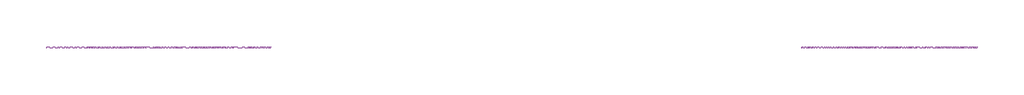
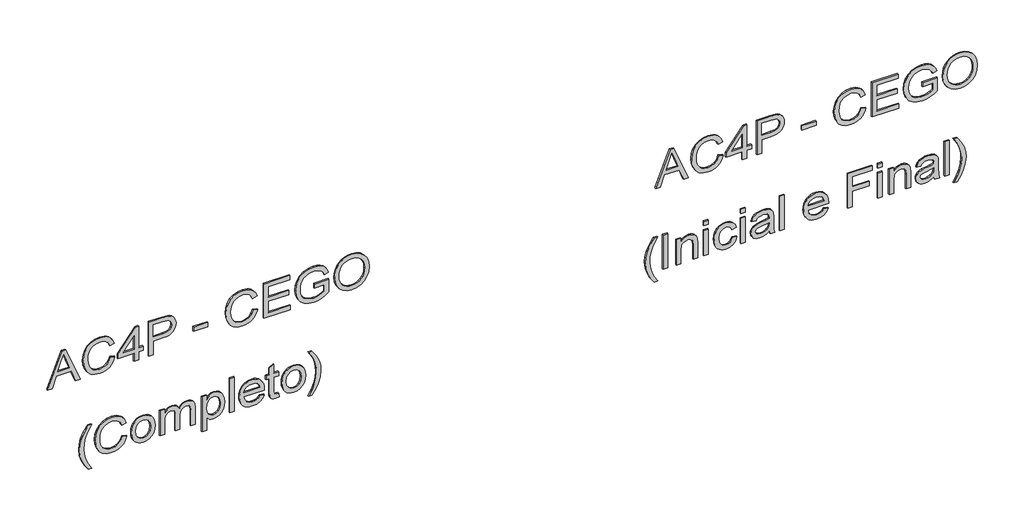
# One storey, part 9 of 12: 2 proxies.
"""IFC4 building model written with IfcOpenShell, lengths in millimetres."""

from ifc_helpers import new_model, si_unit, frame, origin, place, context, project, spatial, polyline, outline, extrude, element, save

model = new_model("IFC4")

# Units and contexts
model_context = context("Model", 3, world=origin())
ifc_project = project(units=[si_unit("LENGTHUNIT", "METRE", prefix="MILLI")], contexts=[model_context])

# Site, building, storey
site = spatial("IfcSite", under=ifc_project)
building = spatial("IfcBuilding", under=site)
storey = spatial("IfcBuildingStorey", under=building, Name="02 - Marelli - Planta Baixa - Painéis Cego", Elevation=12000.0)

# Proxies
placement = place(None, origin())
element("IfcBuildingElementProxy", 1, Name="300mm Arial", ObjectType="300mm Arial", at=placement, inside=storey, context=model_context, shape_type="SweptSolid", body=[
    extrude(outline(polyline([(17965.9244535, 42526.1420514), (17965.9244535, 42565.9468833), (18060.1022443, 42600.380638), (18060.1022443, 42724.5040232), (17965.9244535, 42759.0113544), (17965.9244535, 42798.8161862), (18267.293384, 42678.5187738), (18267.293384, 42646.4394638), (17965.9244535, 42526.1420514)]), holes=[polyline([(18097.7733606, 42614.2130011), (18178.3395176, 42643.7171371), (18229.6222677, 42662.4791188), (18171.8647944, 42683.5955453), (18097.7733606, 42710.7452366), (18097.7733606, 42614.2130011)])]), frame((0.0, 8778.3159498, 0.0), z_axis=(0.0, 1.0, 0.0), x_axis=(0.0, 0.0, 1.0)), (0.0, 0.0, 1.0), 10.0),
    extrude(outline(polyline([(18073.0516905, 43050.9625057), (18040.7884396, 43038.7764146), (18017.5750857, 43018.9935603), (18003.5587816, 42992.7911652), (17998.8866803, 42961.3464517), (18002.3171799, 42934.3715044), (18012.6086787, 42909.3647258), (18029.8347531, 42888.5058167), (18054.0689796, 42873.9744778), (18084.1617268, 42865.4488126), (18118.9633635, 42862.6069242), (18147.3822477, 42865.0073542), (18174.9550032, 42872.2086443), (18199.3455795, 42885.3328344), (18218.2179258, 42905.5019648), (18230.3028494, 42932.081439), (18234.3311572, 42964.4366605), (18230.6983225, 42992.5060567), (18219.7998184, 43015.3515286), (18200.9550632, 43033.1938054), (18173.4834752, 43046.2536162), (18182.4597959, 43083.9247325), (18220.278065, 43067.2872693), (18235.6003501, 43055.485155), (18248.5314022, 43041.3607857), (18258.7999084, 43025.1808757), (18266.1345557, 43007.2121394), (18272.0022735, 42965.9081884), (18267.4681279, 42928.0531311), (18253.8656912, 42893.5090118), (18231.526057, 42864.3819548), (18200.7803193, 42842.7780847), (18162.8332915, 42829.3963771), (18118.8897871, 42824.9358079), (18077.2271512, 42828.8813423), (18038.3236302, 42840.7179455), (18005.2326447, 42860.1053266), (17981.0076153, 42886.7031949), (17966.1635768, 42921.4036641), (17961.215564, 42965.0988481), (17962.8503396, 42987.5212557), (17967.7546665, 43008.1410415), (17975.9285445, 43026.9582055), (17987.3719739, 43043.9727478), (18001.9286046, 43058.848976), (18019.4420868, 43071.2511978), (18039.9124206, 43081.1794131), (18063.3396059, 43088.633622), (18073.0516905, 43050.9625057)])), frame((0.0, 8778.3159498, 0.0), z_axis=(0.0, 1.0, 0.0), x_axis=(0.0, 0.0, 1.0)), (0.0, 0.0, 1.0), 10.0),
    extrude(outline(polyline([(17965.9244535, 43248.7358663), (17965.9244535, 43286.4069826), (18036.5577966, 43286.4069826), (18036.5577966, 43324.0780989), (18074.2289129, 43324.0780989), (18074.2289129, 43286.4069826), (18262.5844944, 43286.4069826), (18262.5844944, 43258.1536454), (18074.2289129, 43112.1780697), (18036.5577966, 43112.1780697), (18036.5577966, 43248.7358663), (17965.9244535, 43248.7358663)]), holes=[polyline([(18074.2289129, 43248.7358663), (18074.2289129, 43158.5312011), (18190.6267762, 43248.7358663), (18074.2289129, 43248.7358663)])]), frame((0.0, 8778.3159498, 0.0), z_axis=(0.0, 1.0, 0.0), x_axis=(0.0, 0.0, 1.0)), (0.0, 0.0, 1.0), 10.0),
    extrude(outline(polyline([(17965.9244535, 43371.1669943), (17965.9244535, 43408.8381106), (18088.3555815, 43408.8381106), (18088.3555815, 43485.431142), (18090.0202476, 43514.6294761), (18095.0142456, 43538.9487753), (18103.3375758, 43558.3890395), (18114.990238, 43572.9502687), (18129.0479287, 43583.5567665), (18144.5863445, 43591.1328363), (18161.6054853, 43595.6784782), (18180.1053511, 43597.1936922), (18201.5620685, 43594.949612), (18221.19777, 43588.2173715), (18237.8444303, 43577.797114), (18250.334024, 43564.4889828), (18259.0620243, 43547.9618842), (18264.4239044, 43527.8847243), (18267.293384, 43482.8559681), (18267.293384, 43371.1669943), (17965.9244535, 43371.1669943)]), holes=[polyline([(18126.0266978, 43408.8381106), (18229.6222677, 43408.8381106), (18229.6222677, 43486.7555172), (18227.0470937, 43524.4266335), (18220.7195234, 43538.6544697), (18209.9773691, 43549.8472794), (18195.7035477, 43557.1037517), (18178.7809759, 43559.5225759), (18156.5057211, 43555.4206916), (18139.8590609, 43543.1150389), (18129.4847886, 43521.0421192), (18126.0266978, 43487.638434), (18126.0266978, 43408.8381106)])]), frame((0.0, 8778.3159498, 0.0), z_axis=(0.0, 1.0, 0.0), x_axis=(0.0, 0.0, 1.0)), (0.0, 0.0, 1.0), 10.0),
    extrude(outline(polyline([(43860.8915063, 8778.3159498), (43743.1692679, 8778.3159498), (43743.1692679, 8788.3159498), (43860.8915063, 8788.3159498), (43860.8915063, 8778.3159498)])), frame((0.0, 0.0, 18055.3933548), z_axis=(0.0, 0.0, 1.0), x_axis=(1.0, 0.0, 0.0)), (0.0, 0.0, 1.0), 37.6711163),
    extrude(outline(polyline([(18073.0516905, 44237.6026694), (18040.7884396, 44225.4165783), (18017.5750857, 44205.633724), (18003.5587816, 44179.4313289), (17998.8866803, 44147.9866153), (18002.3171799, 44121.011668), (18012.6086787, 44096.0048894), (18029.8347531, 44075.1459803), (18054.0689796, 44060.6146415), (18084.1617268, 44052.0889763), (18118.9633635, 44049.2470878), (18147.3822477, 44051.6475179), (18174.9550032, 44058.8488079), (18199.3455795, 44071.9729981), (18218.2179258, 44092.1421285), (18230.3028494, 44118.7216026), (18234.3311572, 44151.0768241), (18230.6983225, 44179.1462203), (18219.7998184, 44201.9916922), (18200.9550632, 44219.833969), (18173.4834752, 44232.8937798), (18182.4597959, 44270.5648961), (18220.278065, 44253.9274329), (18235.6003501, 44242.1253186), (18248.5314022, 44228.0009493), (18258.7999084, 44211.8210393), (18266.1345557, 44193.8523031), (18272.0022735, 44152.5483521), (18267.4681279, 44114.6932948), (18253.8656912, 44080.1491754), (18231.526057, 44051.0221185), (18200.7803193, 44029.4182483), (18162.8332915, 44016.0365407), (18118.8897871, 44011.5759715), (18077.2271512, 44015.5215059), (18038.3236302, 44027.3581091), (18005.2326447, 44046.7454903), (17981.0076153, 44073.3433585), (17966.1635768, 44108.0438277), (17961.215564, 44151.7390117), (17962.8503396, 44174.1614193), (17967.7546665, 44194.7812051), (17975.9285445, 44213.5983692), (17987.3719739, 44230.6129115), (18001.9286046, 44245.4891396), (18019.4420868, 44257.8913614), (18039.9124206, 44267.8195767), (18063.3396059, 44275.2737857), (18073.0516905, 44237.6026694)])), frame((0.0, 8778.3159498, 0.0), z_axis=(0.0, 1.0, 0.0), x_axis=(0.0, 0.0, 1.0)), (0.0, 0.0, 1.0), 10.0),
    extrude(outline(polyline([(17965.9244535, 44327.0715706), (17965.9244535, 44548.3893789), (18003.5955698, 44548.3893789), (18003.5955698, 44364.7426869), (18102.4822501, 44364.7426869), (18102.4822501, 44534.2627103), (18140.1533665, 44534.2627103), (18140.1533665, 44364.7426869), (18229.6222677, 44364.7426869), (18229.6222677, 44543.6804894), (18267.293384, 44543.6804894), (18267.293384, 44327.0715706), (17965.9244535, 44327.0715706)])), frame((0.0, 8778.3159498, 0.0), z_axis=(0.0, 1.0, 0.0), x_axis=(0.0, 0.0, 1.0)), (0.0, 0.0, 1.0), 10.0),
    extrude(outline(polyline([(18083.646692, 44746.1627395), (18083.646692, 44830.9227512), (18029.2001567, 44830.9227512), (18018.55917, 44814.8738991), (18008.5619768, 44792.7733883), (18001.3055044, 44767.3251513), (17998.8866803, 44741.2331208), (18002.0964507, 44711.6829995), (18011.7257619, 44683.8067413), (18027.967752, 44659.9863821), (18051.015559, 44642.6039579), (18080.6576508, 44631.9813652), (18116.6824952, 44628.440501), (18147.4006418, 44631.383557), (18175.83792, 44640.2127249), (18204.8638094, 44659.600106), (18216.8015801, 44674.0394743), (18226.2009651, 44692.41518), (18232.2986092, 44714.6444496), (18234.3311572, 44740.6445096), (18232.445762, 44762.855385), (18226.7895763, 44782.9877272), (18217.9971966, 44799.8735108), (18206.7032194, 44812.3447104), (18191.7212251, 44821.7716866), (18171.8647944, 44829.5247996), (18181.6504555, 44864.25286), (18209.4899255, 44854.6603369), (18231.4984659, 44841.4809645), (18248.494614, 44823.6662788), (18261.2969075, 44800.1678164), (18269.325932, 44772.2639671), (18272.0022735, 44741.2331208), (18267.3853545, 44698.9634795), (18253.5345974, 44661.9177626), (18230.1832877, 44631.5031187), (18197.0647111, 44609.1266963), (18157.581776, 44595.3587126), (18115.1373908, 44590.7693847), (18072.9965082, 44595.3771067), (18035.0126922, 44609.2002727), (18003.3472495, 44632.0641387), (17980.1614867, 44663.7939608), (17965.9520447, 44701.9893089), (17961.215564, 44744.2497531), (17964.1954082, 44776.5957776), (17973.1349406, 44808.1508557), (17987.9789791, 44838.8414111), (18008.6723414, 44868.5938675), (18121.3178083, 44868.5938675), (18121.3178083, 44746.1627395), (18083.646692, 44746.1627395)])), frame((0.0, 8778.3159498, 0.0), z_axis=(0.0, 1.0, 0.0), x_axis=(0.0, 0.0, 1.0)), (0.0, 0.0, 1.0), 10.0),
    extrude(outline(polyline([(18112.6357932, 44915.6827629), (18074.0909572, 44919.9869822), (18037.6246544, 44932.8996403), (18005.9316205, 44954.1632196), (17981.7065911, 44983.5202028), (17966.3383208, 45019.1679681), (17961.215564, 45059.3038938), (17965.8508771, 45097.1129658), (17979.7568166, 45132.2548934), (18002.6758649, 45162.2188819), (18034.3505046, 45184.4941368), (18072.8125672, 45198.3173027), (18116.093884, 45202.9250247), (18158.8049836, 45198.547229), (18196.7336173, 45185.4138417), (18228.3530748, 45163.9295332), (18252.1366458, 45134.4989736), (18267.0358666, 45099.0535434), (18272.0022735, 45059.524623), (18269.3581217, 45029.2341392), (18261.4256662, 45001.8591202), (18248.204907, 44977.3995661), (18229.6958441, 44955.8554768), (18206.5146799, 44938.2799144), (18179.2776166, 44925.7259413), (18147.9846544, 44918.1935575), (18112.6357932, 44915.6827629)]), holes=[polyline([(18112.2679112, 44953.3538792), (18142.8044161, 44955.3174493), (18168.6366299, 44961.2081598), (18189.7645528, 44971.0260105), (18206.1881846, 44984.7710016), (18218.5007351, 45001.2383194), (18227.2954141, 45019.2231504), (18232.5722214, 45038.7254947), (18234.3311572, 45059.7453522), (18230.6799284, 45088.9091974), (18219.726242, 45115.0380161), (18202.1322856, 45136.6970685), (18178.5602467, 45152.451615), (18149.7366924, 45162.053335), (18116.3881896, 45165.2539084), (18089.8501021, 45163.384608), (18066.5217851, 45157.7767069), (18046.4032385, 45148.4302049), (18029.4944623, 45135.3451022), (18016.1035577, 45119.3629288), (18006.5386258, 45101.3252147), (18000.7996667, 45081.23196), (17998.8866803, 45059.0831646), (18000.7812726, 45037.3068497), (18006.4650494, 45017.4481198), (18015.9380108, 44999.5069747), (18029.2001567, 44983.4834146), (18045.759445, 44970.3017428), (18065.1238335, 44960.886263), (18087.2933223, 44955.2369751), (18112.2679112, 44953.3538792)])]), frame((0.0, 8778.3159498, 0.0), z_axis=(0.0, 1.0, 0.0), x_axis=(0.0, 0.0, 1.0)), (0.0, 0.0, 1.0), 10.0),
    extrude(outline(polyline([(17149.3155348, 42867.3158137), (17149.3155348, 42895.569151), (17197.5540614, 42866.7272025), (17245.8109821, 42846.1258108), (17294.0862969, 42833.7649758), (17342.3800058, 42829.6446974), (17380.2534572, 42832.0175363), (17417.9429677, 42839.1360529), (17475.7740173, 42860.3260558), (17535.4444769, 42895.569151), (17535.4444769, 42867.3158137), (17484.934279, 42832.6245416), (17434.2033518, 42808.3075417), (17389.4137189, 42796.0570713), (17342.600735, 42791.9735811), (17289.2210575, 42797.4366288), (17237.68079, 42813.8257716), (17190.2791949, 42838.1243774), (17149.3155348, 42867.3158137)])), frame((0.0, 8778.3159498, 0.0), z_axis=(0.0, 1.0, 0.0), x_axis=(0.0, 0.0, 1.0)), (0.0, 0.0, 1.0), 10.0),
    extrude(outline(polyline([(17341.2027835, 43149.849186), (17308.9395325, 43137.6630949), (17285.7261786, 43117.8802406), (17271.7098746, 43091.6778455), (17267.0377732, 43060.233132), (17270.4682728, 43033.2581847), (17280.7597717, 43008.2514061), (17297.9858461, 42987.392497), (17322.2200725, 42972.8611582), (17352.3128197, 42964.3354929), (17387.1144565, 42961.4936045), (17415.5333406, 42963.8940345), (17443.1060961, 42971.0953246), (17467.4966724, 42984.2195148), (17486.3690188, 43004.3886451), (17498.4539423, 43030.9681193), (17502.4822501, 43063.3233408), (17498.8494154, 43091.392737), (17487.9509113, 43114.2382089), (17469.1061561, 43132.0804857), (17441.6345681, 43145.1402965), (17450.6108888, 43182.8114128), (17488.4291579, 43166.1739496), (17503.751443, 43154.3718353), (17516.6824952, 43140.247466), (17526.9510013, 43124.067556), (17534.2856486, 43106.0988198), (17540.1533665, 43064.7948687), (17535.6192209, 43026.9398114), (17522.0167841, 42992.3956921), (17499.6771499, 42963.2686351), (17468.9314122, 42941.664765), (17430.9843844, 42928.2830574), (17387.0408801, 42923.8224882), (17345.3782441, 42927.7680226), (17306.4747231, 42939.6046258), (17273.3837376, 42958.9920069), (17249.1587083, 42985.5898752), (17234.3146698, 43020.2903444), (17229.3666569, 43063.9855284), (17231.0014325, 43086.407936), (17235.9057594, 43107.0277218), (17244.0796375, 43125.8448858), (17255.5230668, 43142.8594281), (17270.0796975, 43157.7356563), (17287.5931797, 43170.1378781), (17308.0635135, 43180.0660934), (17331.4906988, 43187.5203023), (17341.2027835, 43149.849186)])), frame((0.0, 8778.3159498, 0.0), z_axis=(0.0, 1.0, 0.0), x_axis=(0.0, 0.0, 1.0)), (0.0, 0.0, 1.0), 10.0),
    extrude(outline(polyline([(17344.7344506, 43225.1914186), (17318.4124939, 43226.8997707), (17295.3646869, 43232.0248267), (17275.5910296, 43240.5665868), (17259.0915221, 43252.5250509), (17246.0868936, 43267.251827), (17236.7978732, 43284.0985231), (17231.224461, 43303.0651392), (17229.3666569, 43324.1516753), (17232.7419742, 43350.7403465), (17242.8679261, 43375.1769081), (17259.1007192, 43395.7507087), (17280.7965599, 43410.751097), (17309.767267, 43419.9113587), (17347.8246594, 43422.9647792), (17372.7049786, 43421.2380331), (17394.7388108, 43416.0577948), (17413.9261561, 43407.4240642), (17430.2670145, 43395.3368414), (17443.3199275, 43380.5272918), (17452.6434368, 43363.726581), (17458.2375424, 43344.9347088), (17460.1022443, 43324.1516753), (17458.5709355, 43305.3253142), (17453.9770091, 43287.9888752), (17446.3204651, 43272.1423583), (17435.6013034, 43257.7857634), (17418.830483, 43243.5257376), (17398.095734, 43233.3400048), (17373.3970566, 43227.2285652), (17344.7344506, 43225.1914186)]), holes=[polyline([(17344.808027, 43262.8625349), (17378.8830968, 43267.2219366), (17403.1173232, 43280.3001415), (17417.6026768, 43299.9818283), (17422.431128, 43324.1516753), (17417.5842827, 43348.0732021), (17403.0437468, 43367.7456918), (17379.0854319, 43380.9066702), (17345.9852494, 43385.2936629), (17311.1468245, 43380.9342613), (17286.535519, 43367.8560564), (17271.9122097, 43348.2111578), (17267.0377732, 43324.1516753), (17271.8846185, 43299.9818283), (17286.4251544, 43280.3001415), (17310.7145631, 43267.2219366), (17344.808027, 43262.8625349)])]), frame((0.0, 8778.3159498, 0.0), z_axis=(0.0, 1.0, 0.0), x_axis=(0.0, 0.0, 1.0)), (0.0, 0.0, 1.0), 10.0),
    extrude(outline(polyline([(17234.0755465, 43465.3447851), (17234.0755465, 43503.0159014), (17345.6909438, 43503.0159014), (17371.6082304, 43504.4506412), (17390.6461236, 43508.7548605), (17404.368122, 43516.2596532), (17414.3377241, 43527.2961131), (17420.407777, 43540.6686236), (17422.431128, 43555.1815683), (17419.3961015, 43572.2604899), (17410.2910222, 43583.7659993), (17395.0974958, 43590.3051018), (17373.7971282, 43592.4848026), (17234.0755465, 43592.4848026), (17234.0755465, 43630.1559189), (17359.008272, 43630.1559189), (17387.7214617, 43633.8439359), (17407.3479662, 43644.9079869), (17418.6603375, 43661.5454502), (17422.431128, 43681.9537039), (17420.9596, 43693.5143956), (17416.5450161, 43703.4748006), (17409.7300021, 43711.2187166), (17401.0571841, 43716.1299412), (17369.6032735, 43719.6248202), (17234.0755465, 43719.6248202), (17234.0755465, 43757.2959365), (17385.7900813, 43757.2959365), (17418.7615051, 43752.9825201), (17441.8920855, 43740.0422709), (17455.5497046, 43719.1005883), (17460.1022443, 43690.7828717), (17457.366122, 43671.2575348), (17449.1577549, 43653.6635784), (17435.4771432, 43638.0010025), (17416.3242869, 43624.269807), (17434.7643719, 43616.0660385), (17448.5875379, 43603.5212625), (17457.2235677, 43586.7274494), (17460.1022443, 43565.7765698), (17457.27875, 43546.2236417), (17448.808267, 43528.9147939), (17435.702471, 43514.3466669), (17418.9730372, 43503.0159014), (17455.3933548, 43503.0159014), (17455.3933548, 43465.3447851), (17234.0755465, 43465.3447851)])), frame((0.0, 8778.3159498, 0.0), z_axis=(0.0, 1.0, 0.0), x_axis=(0.0, 0.0, 1.0)), (0.0, 0.0, 1.0), 10.0),
    extrude(outline(polyline([(17149.3155348, 43813.8026109), (17149.3155348, 43851.4737272), (17263.5061061, 43851.4737272), (17249.9956398, 43862.1147139), (17239.0419534, 43875.3492687), (17231.785481, 43890.8095096), (17229.3666569, 43908.1275545), (17232.9810975, 43932.5457219), (17243.8244193, 43955.7682729), (17261.4459669, 43975.707477), (17285.3950848, 43990.275604), (17314.2094421, 43999.1875453), (17346.4267078, 44002.1581925), (17376.7217901, 43999.5278362), (17404.4784866, 43991.6367674), (17427.9861461, 43978.5769566), (17445.5341173, 43960.4403742), (17456.4602125, 43938.1651194), (17460.1022443, 43912.6892912), (17457.4994792, 43893.5594275), (17449.6911838, 43877.5197725), (17436.6773583, 43863.7609859), (17418.4580024, 43851.4737272), (17455.3933548, 43851.4737272), (17455.3933548, 43813.8026109), (17149.3155348, 43813.8026109)]), holes=[polyline([(17342.968617, 43851.4737272), (17377.1356573, 43855.8239318), (17402.0872537, 43868.8745456), (17417.3451594, 43887.572148), (17422.431128, 43908.8633185), (17417.6486621, 43930.0717155), (17403.3012642, 43948.0795392), (17379.3521464, 43960.3851919), (17345.7645202, 43964.4870761), (17310.7237602, 43960.2840244), (17286.2412134, 43947.674869), (17271.8386333, 43929.1796017), (17267.0377732, 43907.3182141), (17271.6730864, 43885.8063144), (17285.5790258, 43867.7708996), (17309.1970499, 43855.5480203), (17342.968617, 43851.4737272)])]), frame((0.0, 8778.3159498, 0.0), z_axis=(0.0, 1.0, 0.0), x_axis=(0.0, 0.0, 1.0)), (0.0, 0.0, 1.0), 10.0),
    extrude(outline(polyline([(44082.2093146, 8778.3159498), (44044.5381983, 8778.3159498), (44044.5381983, 8788.3159498), (44082.2093146, 8788.3159498), (44082.2093146, 8778.3159498)])), frame((0.0, 0.0, 17234.0755465), z_axis=(0.0, 0.0, 1.0), x_axis=(1.0, 0.0, 0.0)), (0.0, 0.0, 1.0), 301.3689304),
    extrude(outline(polyline([(17300.0, 44293.6678854), (17285.1191733, 44283.1096722), (17274.9104479, 44269.3876738), (17269.0059419, 44252.5018902), (17267.0377732, 44232.4523214), (17271.2868103, 44205.7900738), (17284.0339214, 44183.9286863), (17304.7640718, 44168.7811451), (17332.9622268, 44162.2604368), (17332.9622268, 44331.5597309), (17343.1157698, 44331.7804601), (17369.3687487, 44329.9939332), (17392.5039277, 44324.6343524), (17412.5213067, 44315.7017177), (17429.4208859, 44303.1960291), (17442.8439802, 44287.8760433), (17452.4319047, 44270.5005168), (17458.1846594, 44251.0694497), (17460.1022443, 44229.5828419), (17458.1800609, 44207.3811635), (17452.4135106, 44187.3499888), (17442.8025935, 44169.489318), (17429.3473095, 44153.7991509), (17412.4109422, 44141.0198501), (17392.3567749, 44131.8917781), (17369.1848077, 44126.4149349), (17342.8950406, 44124.5893205), (17317.467497, 44126.3965408), (17295.0427901, 44131.8182017), (17275.62092, 44140.8543032), (17259.2018867, 44153.5048453), (17246.1489737, 44169.2363991), (17236.8254644, 44187.5155357), (17231.2313588, 44208.3422552), (17229.3666569, 44231.7165574), (17233.6892704, 44267.3735198), (17246.6571107, 44296.0591184), (17267.4608375, 44317.2951066), (17295.2911105, 44330.6032377), (17300.0, 44293.6678854)]), holes=[polyline([(17370.6333431, 44162.2604368), (17391.8693312, 44168.4500513), (17408.3412476, 44183.0457695), (17418.9086579, 44204.0426344), (17422.431128, 44229.4356891), (17418.0165441, 44257.0636269), (17404.7727922, 44279.026182), (17390.535759, 44289.0141782), (17370.6333431, 44294.1093438), (17370.6333431, 44162.2604368)])]), frame((0.0, 8778.3159498, 0.0), z_axis=(0.0, 1.0, 0.0), x_axis=(0.0, 0.0, 1.0)), (0.0, 0.0, 1.0), 10.0),
    extrude(outline(polyline([(17265.4926689, 44449.5026986), (17267.0377732, 44433.0951616), (17269.576159, 44420.25608), (17276.4555523, 44413.8181451), (17295.8797217, 44411.8315823), (17417.7222385, 44411.8315823), (17417.7222385, 44449.5026986), (17455.3933548, 44449.5026986), (17455.3933548, 44411.8315823), (17531.3241986, 44411.8315823), (17509.1777025, 44374.160466), (17455.3933548, 44374.160466), (17455.3933548, 44345.9071287), (17417.7222385, 44345.9071287), (17417.7222385, 44374.160466), (17294.7760757, 44374.160466), (17267.7919313, 44375.3009002), (17252.0281878, 44378.7222027), (17242.849532, 44384.9394084), (17235.6206508, 44394.4675521), (17230.9301554, 44407.9504272), (17229.3666569, 44426.0318273), (17232.9719005, 44454.2115881), (17265.4926689, 44449.5026986)])), frame((0.0, 8778.3159498, 0.0), z_axis=(0.0, 1.0, 0.0), x_axis=(0.0, 0.0, 1.0)), (0.0, 0.0, 1.0), 10.0),
    extrude(outline(polyline([(17344.7344506, 44477.7560358), (17318.4124939, 44479.4643878), (17295.3646869, 44484.5894439), (17275.5910296, 44493.131204), (17259.0915221, 44505.0896681), (17246.0868936, 44519.8164442), (17236.7978732, 44536.6631403), (17231.224461, 44555.6297564), (17229.3666569, 44576.7162925), (17232.7419742, 44603.3049637), (17242.8679261, 44627.7415253), (17259.1007192, 44648.3153258), (17280.7965599, 44663.3157142), (17309.767267, 44672.4759759), (17347.8246594, 44675.5293964), (17372.7049786, 44673.8026503), (17394.7388108, 44668.622412), (17413.9261561, 44659.9886814), (17430.2670145, 44647.9014586), (17443.3199275, 44633.091909), (17452.6434368, 44616.2911982), (17458.2375424, 44597.499326), (17460.1022443, 44576.7162925), (17458.5709355, 44557.8899314), (17453.9770091, 44540.5534924), (17446.3204651, 44524.7069755), (17435.6013034, 44510.3503806), (17418.830483, 44496.0903548), (17398.095734, 44485.904622), (17373.3970566, 44479.7931824), (17344.7344506, 44477.7560358)]), holes=[polyline([(17344.808027, 44515.4271521), (17378.8830968, 44519.7865538), (17403.1173232, 44532.8647587), (17417.6026768, 44552.5464454), (17422.431128, 44576.7162925), (17417.5842827, 44600.6378193), (17403.0437468, 44620.310309), (17379.0854319, 44633.4712873), (17345.9852494, 44637.8582801), (17311.1468245, 44633.4988785), (17286.535519, 44620.4206735), (17271.9122097, 44600.775775), (17267.0377732, 44576.7162925), (17271.8846185, 44552.5464454), (17286.4251544, 44532.8647587), (17310.7145631, 44519.7865538), (17344.808027, 44515.4271521)])]), frame((0.0, 8778.3159498, 0.0), z_axis=(0.0, 1.0, 0.0), x_axis=(0.0, 0.0, 1.0)), (0.0, 0.0, 1.0), 10.0),
    extrude(outline(polyline([(17149.3155348, 44727.3271813), (17190.2791949, 44756.3806619), (17237.68079, 44780.7068588), (17289.2210575, 44797.1787752), (17342.600735, 44802.669414), (17389.4137189, 44798.5859238), (17434.2033518, 44786.3354534), (17484.934279, 44762.0184535), (17535.4444769, 44727.3271813), (17535.4444769, 44699.0738441), (17475.1854061, 44734.5376685), (17446.8400984, 44746.5122274), (17417.2807801, 44755.5069422), (17379.9775458, 44762.6254588), (17342.3800058, 44764.9982977), (17294.0862969, 44760.8780193), (17245.8109821, 44748.5171843), (17197.5540614, 44727.9157925), (17149.3155348, 44699.0738441), (17149.3155348, 44727.3271813)])), frame((0.0, 8778.3159498, 0.0), z_axis=(0.0, 1.0, 0.0), x_axis=(0.0, 0.0, 1.0)), (0.0, 0.0, 1.0), 10.0),
])
element("IfcBuildingElementProxy", 2, Name="300mm Arial", ObjectType="300mm Arial", at=placement, inside=storey, context=model_context, shape_type="SweptSolid", body=[
    extrude(outline(polyline([(17965.9244535, 47585.0031706), (17965.9244535, 47624.8080025), (18060.1022443, 47659.2417573), (18060.1022443, 47783.3651424), (17965.9244535, 47817.8724736), (17965.9244535, 47857.6773055), (18267.293384, 47737.379893), (18267.293384, 47705.3005831), (17965.9244535, 47585.0031706)]), holes=[polyline([(18097.7733606, 47673.0741203), (18178.3395176, 47702.5782563), (18229.6222677, 47721.340238), (18171.8647944, 47742.4566646), (18097.7733606, 47769.6063558), (18097.7733606, 47673.0741203)])]), frame((0.0, 8778.3159498, 0.0), z_axis=(0.0, 1.0, 0.0), x_axis=(0.0, 0.0, 1.0)), (0.0, 0.0, 1.0), 10.0),
    extrude(outline(polyline([(18073.0516905, 48109.823625), (18040.7884396, 48097.6375339), (18017.5750857, 48077.8546796), (18003.5587816, 48051.6522845), (17998.8866803, 48020.2075709), (18002.3171799, 47993.2326236), (18012.6086787, 47968.225845), (18029.8347531, 47947.3669359), (18054.0689796, 47932.8355971), (18084.1617268, 47924.3099318), (18118.9633635, 47921.4680434), (18147.3822477, 47923.8684734), (18174.9550032, 47931.0697635), (18199.3455795, 47944.1939537), (18218.2179258, 47964.3630841), (18230.3028494, 47990.9425582), (18234.3311572, 48023.2977797), (18230.6983225, 48051.3671759), (18219.7998184, 48074.2126478), (18200.9550632, 48092.0549246), (18173.4834752, 48105.1147354), (18182.4597959, 48142.7858517), (18220.278065, 48126.1483885), (18235.6003501, 48114.3462742), (18248.5314022, 48100.2219049), (18258.7999084, 48084.0419949), (18266.1345557, 48066.0732587), (18272.0022735, 48024.7693077), (18267.4681279, 47986.9142504), (18253.8656912, 47952.370131), (18231.526057, 47923.2430741), (18200.7803193, 47901.6392039), (18162.8332915, 47888.2574963), (18118.8897871, 47883.7969271), (18077.2271512, 47887.7424615), (18038.3236302, 47899.5790647), (18005.2326447, 47918.9664459), (17981.0076153, 47945.5643141), (17966.1635768, 47980.2647833), (17961.215564, 48023.9599673), (17962.8503396, 48046.3823749), (17967.7546665, 48067.0021607), (17975.9285445, 48085.8193248), (17987.3719739, 48102.833867), (18001.9286046, 48117.7100952), (18019.4420868, 48130.112317), (18039.9124206, 48140.0405323), (18063.3396059, 48147.4947413), (18073.0516905, 48109.823625)])), frame((0.0, 8778.3159498, 0.0), z_axis=(0.0, 1.0, 0.0), x_axis=(0.0, 0.0, 1.0)), (0.0, 0.0, 1.0), 10.0),
    extrude(outline(polyline([(17965.9244535, 48307.5969856), (17965.9244535, 48345.2681019), (18036.5577966, 48345.2681019), (18036.5577966, 48382.9392182), (18074.2289129, 48382.9392182), (18074.2289129, 48345.2681019), (18262.5844944, 48345.2681019), (18262.5844944, 48317.0147646), (18074.2289129, 48171.039189), (18036.5577966, 48171.039189), (18036.5577966, 48307.5969856), (17965.9244535, 48307.5969856)]), holes=[polyline([(18074.2289129, 48307.5969856), (18074.2289129, 48217.3923203), (18190.6267762, 48307.5969856), (18074.2289129, 48307.5969856)])]), frame((0.0, 8778.3159498, 0.0), z_axis=(0.0, 1.0, 0.0), x_axis=(0.0, 0.0, 1.0)), (0.0, 0.0, 1.0), 10.0),
    extrude(outline(polyline([(17965.9244535, 48430.0281136), (17965.9244535, 48467.6992299), (18088.3555815, 48467.6992299), (18088.3555815, 48544.2922613), (18090.0202476, 48573.4905954), (18095.0142456, 48597.8098945), (18103.3375758, 48617.2501587), (18114.990238, 48631.8113879), (18129.0479287, 48642.4178857), (18144.5863445, 48649.9939555), (18161.6054853, 48654.5395974), (18180.1053511, 48656.0548114), (18201.5620685, 48653.8107312), (18221.19777, 48647.0784907), (18237.8444303, 48636.6582332), (18250.334024, 48623.350102), (18259.0620243, 48606.8230034), (18264.4239044, 48586.7458435), (18267.293384, 48541.7170873), (18267.293384, 48430.0281136), (17965.9244535, 48430.0281136)]), holes=[polyline([(18126.0266978, 48467.6992299), (18229.6222677, 48467.6992299), (18229.6222677, 48545.6166364), (18227.0470937, 48583.2877527), (18220.7195234, 48597.5155889), (18209.9773691, 48608.7083986), (18195.7035477, 48615.964871), (18178.7809759, 48618.3836951), (18156.5057211, 48614.2818108), (18139.8590609, 48601.9761581), (18129.4847886, 48579.9032384), (18126.0266978, 48546.4995532), (18126.0266978, 48467.6992299)])]), frame((0.0, 8778.3159498, 0.0), z_axis=(0.0, 1.0, 0.0), x_axis=(0.0, 0.0, 1.0)), (0.0, 0.0, 1.0), 10.0),
    extrude(outline(polyline([(48919.7526255, 8778.3159498), (48802.0303871, 8778.3159498), (48802.0303871, 8788.3159498), (48919.7526255, 8788.3159498), (48919.7526255, 8778.3159498)])), frame((0.0, 0.0, 18055.3933548), z_axis=(0.0, 0.0, 1.0), x_axis=(1.0, 0.0, 0.0)), (0.0, 0.0, 1.0), 37.6711163),
    extrude(outline(polyline([(18073.0516905, 49296.4637886), (18040.7884396, 49284.2776975), (18017.5750857, 49264.4948432), (18003.5587816, 49238.2924481), (17998.8866803, 49206.8477346), (18002.3171799, 49179.8727873), (18012.6086787, 49154.8660087), (18029.8347531, 49134.0070995), (18054.0689796, 49119.4757607), (18084.1617268, 49110.9500955), (18118.9633635, 49108.1082071), (18147.3822477, 49110.5086371), (18174.9550032, 49117.7099271), (18199.3455795, 49130.8341173), (18218.2179258, 49151.0032477), (18230.3028494, 49177.5827219), (18234.3311572, 49209.9379433), (18230.6983225, 49238.0073396), (18219.7998184, 49260.8528115), (18200.9550632, 49278.6950882), (18173.4834752, 49291.7548991), (18182.4597959, 49329.4260154), (18220.278065, 49312.7885521), (18235.6003501, 49300.9864379), (18248.5314022, 49286.8620685), (18258.7999084, 49270.6821585), (18266.1345557, 49252.7134223), (18272.0022735, 49211.4094713), (18267.4681279, 49173.554414), (18253.8656912, 49139.0102947), (18231.526057, 49109.8832377), (18200.7803193, 49088.2793675), (18162.8332915, 49074.89766), (18118.8897871, 49070.4370908), (18077.2271512, 49074.3826252), (18038.3236302, 49086.2192284), (18005.2326447, 49105.6066095), (17981.0076153, 49132.2044778), (17966.1635768, 49166.9049469), (17961.215564, 49210.6001309), (17962.8503396, 49233.0225385), (17967.7546665, 49253.6423244), (17975.9285445, 49272.4594884), (17987.3719739, 49289.4740307), (18001.9286046, 49304.3502589), (18019.4420868, 49316.7524806), (18039.9124206, 49326.680696), (18063.3396059, 49334.1349049), (18073.0516905, 49296.4637886)])), frame((0.0, 8778.3159498, 0.0), z_axis=(0.0, 1.0, 0.0), x_axis=(0.0, 0.0, 1.0)), (0.0, 0.0, 1.0), 10.0),
    extrude(outline(polyline([(17965.9244535, 49385.9326898), (17965.9244535, 49607.2504981), (18003.5955698, 49607.2504981), (18003.5955698, 49423.6038061), (18102.4822501, 49423.6038061), (18102.4822501, 49593.1238295), (18140.1533665, 49593.1238295), (18140.1533665, 49423.6038061), (18229.6222677, 49423.6038061), (18229.6222677, 49602.5416086), (18267.293384, 49602.5416086), (18267.293384, 49385.9326898), (17965.9244535, 49385.9326898)])), frame((0.0, 8778.3159498, 0.0), z_axis=(0.0, 1.0, 0.0), x_axis=(0.0, 0.0, 1.0)), (0.0, 0.0, 1.0), 10.0),
    extrude(outline(polyline([(18083.646692, 49805.0238587), (18083.646692, 49889.7838704), (18029.2001567, 49889.7838704), (18018.55917, 49873.7350184), (18008.5619768, 49851.6345075), (18001.3055044, 49826.1862705), (17998.8866803, 49800.09424), (18002.0964507, 49770.5441187), (18011.7257619, 49742.6678605), (18027.967752, 49718.8475014), (18051.015559, 49701.4650771), (18080.6576508, 49690.8424845), (18116.6824952, 49687.3016203), (18147.4006418, 49690.2446762), (18175.83792, 49699.0738441), (18204.8638094, 49718.4612253), (18216.8015801, 49732.9005936), (18226.2009651, 49751.2762992), (18232.2986092, 49773.5055688), (18234.3311572, 49799.5056288), (18232.445762, 49821.7165043), (18226.7895763, 49841.8488464), (18217.9971966, 49858.73463), (18206.7032194, 49871.2058297), (18191.7212251, 49880.6328058), (18171.8647944, 49888.3859188), (18181.6504555, 49923.1139792), (18209.4899255, 49913.5214562), (18231.4984659, 49900.3420837), (18248.494614, 49882.5273981), (18261.2969075, 49859.0289356), (18269.325932, 49831.1250863), (18272.0022735, 49800.09424), (18267.3853545, 49757.8245987), (18253.5345974, 49720.7788818), (18230.1832877, 49690.3642379), (18197.0647111, 49667.9878155), (18157.581776, 49654.2198319), (18115.1373908, 49649.630504), (18072.9965082, 49654.238226), (18035.0126922, 49668.0613919), (18003.3472495, 49690.9252579), (17980.1614867, 49722.65508), (17965.9520447, 49760.8504282), (17961.215564, 49803.1108724), (17964.1954082, 49835.4568968), (17973.1349406, 49867.0119749), (17987.9789791, 49897.7025304), (18008.6723414, 49927.4549867), (18121.3178083, 49927.4549867), (18121.3178083, 49805.0238587), (18083.646692, 49805.0238587)])), frame((0.0, 8778.3159498, 0.0), z_axis=(0.0, 1.0, 0.0), x_axis=(0.0, 0.0, 1.0)), (0.0, 0.0, 1.0), 10.0),
    extrude(outline(polyline([(18112.6357932, 49974.5438821), (18074.0909572, 49978.8481015), (18037.6246544, 49991.7607595), (18005.9316205, 50013.0243388), (17981.7065911, 50042.381322), (17966.3383208, 50078.0290873), (17961.215564, 50118.165013), (17965.8508771, 50155.9740851), (17979.7568166, 50191.1160127), (18002.6758649, 50221.0800012), (18034.3505046, 50243.355256), (18072.8125672, 50257.178422), (18116.093884, 50261.7861439), (18158.8049836, 50257.4083482), (18196.7336173, 50244.274961), (18228.3530748, 50222.7906525), (18252.1366458, 50193.3600928), (18267.0358666, 50157.9146626), (18272.0022735, 50118.3857422), (18269.3581217, 50088.0952584), (18261.4256662, 50060.7202395), (18248.204907, 50036.2606853), (18229.6958441, 50014.716596), (18206.5146799, 49997.1410337), (18179.2776166, 49984.5870606), (18147.9846544, 49977.0546767), (18112.6357932, 49974.5438821)]), holes=[polyline([(18112.2679112, 50012.2149984), (18142.8044161, 50014.1785686), (18168.6366299, 50020.069279), (18189.7645528, 50029.8871298), (18206.1881846, 50043.6321208), (18218.5007351, 50060.0994386), (18227.2954141, 50078.0842696), (18232.5722214, 50097.5866139), (18234.3311572, 50118.6064714), (18230.6799284, 50147.7703166), (18219.726242, 50173.8991353), (18202.1322856, 50195.5581878), (18178.5602467, 50211.3127342), (18149.7366924, 50220.9144543), (18116.3881896, 50224.1150276), (18089.8501021, 50222.2457272), (18066.5217851, 50216.6378261), (18046.4032385, 50207.2913241), (18029.4944623, 50194.2062214), (18016.1035577, 50178.224048), (18006.5386258, 50160.1863339), (18000.7996667, 50140.0930792), (17998.8866803, 50117.9442838), (18000.7812726, 50096.167969), (18006.4650494, 50076.309239), (18015.9380108, 50058.368094), (18029.2001567, 50042.3445338), (18045.759445, 50029.1628621), (18065.1238335, 50019.7473823), (18087.2933223, 50014.0980944), (18112.2679112, 50012.2149984)])]), frame((0.0, 8778.3159498, 0.0), z_axis=(0.0, 1.0, 0.0), x_axis=(0.0, 0.0, 1.0)), (0.0, 0.0, 1.0), 10.0),
    extrude(outline(polyline([(17149.3155348, 47573.0102176), (17149.3155348, 47601.2635548), (17197.5540614, 47572.4216064), (17245.8109821, 47551.8202147), (17294.0862969, 47539.4593796), (17342.3800058, 47535.3391013), (17380.2534572, 47537.7119402), (17417.9429677, 47544.8304568), (17475.7740173, 47566.0204597), (17535.4444769, 47601.2635548), (17535.4444769, 47573.0102176), (17484.934279, 47538.3189454), (17434.2033518, 47514.0019456), (17389.4137189, 47501.7514751), (17342.600735, 47497.667985), (17289.2210575, 47503.1310326), (17237.68079, 47519.5201755), (17190.2791949, 47543.8187813), (17149.3155348, 47573.0102176)])), frame((0.0, 8778.3159498, 0.0), z_axis=(0.0, 1.0, 0.0), x_axis=(0.0, 0.0, 1.0)), (0.0, 0.0, 1.0), 10.0),
    extrude(outline(polyline([(47686.0235665, 8778.3159498), (47648.3524502, 8778.3159498), (47648.3524502, 8788.3159498), (47686.0235665, 8788.3159498), (47686.0235665, 8778.3159498)])), frame((0.0, 0.0, 17234.0755465), z_axis=(0.0, 0.0, 1.0), x_axis=(1.0, 0.0, 0.0)), (0.0, 0.0, 1.0), 301.3689304),
    extrude(outline(polyline([(17234.0755465, 47756.6569096), (17234.0755465, 47794.3280259), (17351.5034793, 47794.3280259), (17386.2131456, 47798.6230482), (17398.5877762, 47803.9918261), (17407.6422718, 47811.5081151), (17418.7339139, 47830.3160821), (17422.431128, 47852.3798047), (17420.7848561, 47866.2765471), (17415.8460403, 47878.241909), (17408.1481095, 47887.5769146), (17398.2244927, 47893.5825882), (17364.8943839, 47897.9235957), (17234.0755465, 47897.9235957), (17234.0755465, 47935.594712), (17369.9711555, 47935.594712), (17406.391473, 47933.6081493), (17434.0929872, 47922.314172), (17444.6328064, 47912.2158112), (17452.9285454, 47898.0339603), (17458.3088196, 47881.0286151), (17460.1022443, 47862.4597714), (17457.8765582, 47841.4813006), (17451.1995, 47823.1331861), (17440.0710697, 47807.4154279), (17424.4912672, 47794.3280259), (17455.3933548, 47794.3280259), (17455.3933548, 47756.6569096), (17234.0755465, 47756.6569096)])), frame((0.0, 8778.3159498, 0.0), z_axis=(0.0, 1.0, 0.0), x_axis=(0.0, 0.0, 1.0)), (0.0, 0.0, 1.0), 10.0),
    extrude(outline(polyline([(48025.0636133, 8778.3159498), (47987.392497, 8778.3159498), (47987.392497, 8788.3159498), (48025.0636133, 8788.3159498), (48025.0636133, 8778.3159498)])), frame((0.0, 0.0, 17497.7733606), z_axis=(0.0, 0.0, 1.0), x_axis=(1.0, 0.0, 0.0)), (0.0, 0.0, 1.0), 37.6711163),
    extrude(outline(polyline([(48025.0636133, 8778.3159498), (47987.392497, 8778.3159498), (47987.392497, 8788.3159498), (48025.0636133, 8788.3159498), (48025.0636133, 8778.3159498)])), frame((0.0, 0.0, 17234.0755465), z_axis=(0.0, 0.0, 1.0), x_axis=(1.0, 0.0, 0.0)), (0.0, 0.0, 1.0), 221.3178083),
    extrude(outline(polyline([(17314.1266686, 48222.8369739), (17293.2493654, 48216.408236), (17278.5892679, 48204.7739679), (17269.9256469, 48188.7802982), (17267.0377732, 48169.2733554), (17271.6638893, 48145.241464), (17285.5422376, 48126.2679501), (17309.6477053, 48113.9347063), (17344.9551798, 48109.823625), (17379.7936048, 48114.0266767), (17403.816299, 48126.6358321), (17417.7774208, 48145.9588339), (17422.431128, 48170.303425), (17420.0674862, 48186.7937354), (17412.9765607, 48200.6536896), (17401.1951398, 48211.2946763), (17384.7600117, 48218.1280843), (17389.4689012, 48255.7992006), (17419.4512838, 48245.54449), (17441.7081445, 48227.288346), (17455.5037194, 48201.840109), (17460.1022443, 48170.0091194), (17456.7545181, 48143.3652659), (17446.7113397, 48118.7631574), (17429.9635118, 48098.1985539), (17406.5018376, 48083.6672151), (17377.448357, 48075.0311853), (17343.9251102, 48072.1525086), (17317.8675687, 48073.837868), (17295.024396, 48078.8939462), (17275.3955923, 48087.3207432), (17258.9811575, 48099.1182589), (17246.0248135, 48113.6932837), (17236.7702821, 48130.4526078), (17231.2175632, 48149.3962313), (17229.3666569, 48170.5241542), (17234.6733547, 48203.1552871), (17250.593448, 48230.2681902), (17275.9129264, 48250.0050592), (17309.4177791, 48260.5080902), (17314.1266686, 48222.8369739)])), frame((0.0, 8778.3159498, 0.0), z_axis=(0.0, 1.0, 0.0), x_axis=(0.0, 0.0, 1.0)), (0.0, 0.0, 1.0), 10.0),
    extrude(outline(polyline([(48331.1414333, 8778.3159498), (48293.4703169, 8778.3159498), (48293.4703169, 8788.3159498), (48331.1414333, 8788.3159498), (48331.1414333, 8778.3159498)])), frame((0.0, 0.0, 17497.7733606), z_axis=(0.0, 0.0, 1.0), x_axis=(1.0, 0.0, 0.0)), (0.0, 0.0, 1.0), 37.6711163),
    extrude(outline(polyline([(48331.1414333, 8778.3159498), (48293.4703169, 8778.3159498), (48293.4703169, 8788.3159498), (48331.1414333, 8788.3159498), (48331.1414333, 8778.3159498)])), frame((0.0, 0.0, 17234.0755465), z_axis=(0.0, 0.0, 1.0), x_axis=(1.0, 0.0, 0.0)), (0.0, 0.0, 1.0), 221.3178083),
    extrude(outline(polyline([(17262.3288837, 48528.9147939), (17234.0755465, 48538.3325729), (17234.0755465, 48576.0036892), (17265.7501862, 48568.4988965), (17331.1963932, 48566.5859102), (17378.0645594, 48566.5859102), (17411.0267861, 48564.7465002), (17425.1442577, 48560.2031575), (17436.5945848, 48553.1950055), (17445.856014, 48542.6275952), (17453.406792, 48527.4064777), (17458.4283812, 48507.2189532), (17460.1022443, 48481.7523221), (17458.207652, 48455.2004391), (17452.5238752, 48432.0514645), (17443.3452194, 48413.1239359), (17430.9659903, 48399.2363906), (17414.7791825, 48389.4783206), (17394.1777908, 48382.9392182), (17389.4689012, 48420.6103345), (17405.1314772, 48428.0967331), (17415.1838527, 48438.783705), (17420.6193092, 48454.455478), (17422.431128, 48476.8962797), (17419.7088012, 48501.1397032), (17411.5418209, 48518.5405216), (17400.5421493, 48526.3212258), (17383.7299421, 48528.9147939), (17375.3422326, 48528.6940647), (17368.3524747, 48501.8754672), (17362.3927864, 48463.3582223), (17356.7274037, 48430.7638775), (17344.3665686, 48404.3867385), (17334.8752131, 48393.78254), (17322.7351073, 48385.4408157), (17308.5532564, 48380.0329504), (17292.9366657, 48378.2303286), (17267.6079903, 48383.0035975), (17247.2457219, 48397.3234042), (17233.8364232, 48420.5459551), (17229.3666569, 48452.0274569), (17231.224461, 48472.895563), (17236.7978732, 48492.3841117), (17246.896234, 48510.9161672), (17262.3288837, 48528.9147939)]), holes=[polyline([(17337.6711163, 48528.9147939), (17327.0025384, 48528.6940647), (17310.0799667, 48527.2041426), (17297.8662844, 48522.7343763), (17286.0112871, 48512.6544097), (17276.0508821, 48498.1598591), (17269.2910505, 48480.2807941), (17267.0377732, 48460.0472844), (17269.0795183, 48440.9634059), (17275.2047535, 48427.1218458), (17284.3834093, 48418.7065452), (17295.5854161, 48415.9014449), (17310.0799667, 48421.0517929), (17320.0127805, 48435.7302845), (17326.1196217, 48468.1406883), (17337.6711163, 48528.9147939)])]), frame((0.0, 8778.3159498, 0.0), z_axis=(0.0, 1.0, 0.0), x_axis=(0.0, 0.0, 1.0)), (0.0, 0.0, 1.0), 10.0),
    extrude(outline(polyline([(48656.0548114, 8778.3159498), (48618.3836951, 8778.3159498), (48618.3836951, 8788.3159498), (48656.0548114, 8788.3159498), (48656.0548114, 8778.3159498)])), frame((0.0, 0.0, 17234.0755465), z_axis=(0.0, 0.0, 1.0), x_axis=(1.0, 0.0, 0.0)), (0.0, 0.0, 1.0), 301.3689304),
    extrude(outline(polyline([(17300.0, 48985.2356207), (17285.1191733, 48974.6774074), (17274.9104479, 48960.955409), (17269.0059419, 48944.0696254), (17267.0377732, 48924.0200567), (17271.2868103, 48897.3578091), (17284.0339214, 48875.4964215), (17304.7640718, 48860.3488804), (17332.9622268, 48853.828172), (17332.9622268, 49023.1274662), (17343.1157698, 49023.3481954), (17369.3687487, 49021.5616684), (17392.5039277, 49016.2020876), (17412.5213067, 49007.2694529), (17429.4208859, 48994.7637644), (17442.8439802, 48979.4437785), (17452.4319047, 48962.068252), (17458.1846594, 48942.6371849), (17460.1022443, 48921.1505771), (17458.1800609, 48898.9488987), (17452.4135106, 48878.9177241), (17442.8025935, 48861.0570532), (17429.3473095, 48845.3668861), (17412.4109422, 48832.5875853), (17392.3567749, 48823.4595133), (17369.1848077, 48817.9826701), (17342.8950406, 48816.1570557), (17317.467497, 48817.964276), (17295.0427901, 48823.3859369), (17275.62092, 48832.4220384), (17259.2018867, 48845.0725805), (17246.1489737, 48860.8041343), (17236.8254644, 48879.083271), (17231.2313588, 48899.9099904), (17229.3666569, 48923.2842927), (17233.6892704, 48958.9412551), (17246.6571107, 48987.6268536), (17267.4608375, 49008.8628418), (17295.2911105, 49022.170973), (17300.0, 48985.2356207)]), holes=[polyline([(17370.6333431, 48853.828172), (17391.8693312, 48860.0177866), (17408.3412476, 48874.6135047), (17418.9086579, 48895.6103696), (17422.431128, 48921.0034243), (17418.0165441, 48948.6313622), (17404.7727922, 48970.5939173), (17390.535759, 48980.5819134), (17370.6333431, 48985.6770791), (17370.6333431, 48853.828172)])]), frame((0.0, 8778.3159498, 0.0), z_axis=(0.0, 1.0, 0.0), x_axis=(0.0, 0.0, 1.0)), (0.0, 0.0, 1.0), 10.0),
    extrude(outline(polyline([(17234.0755465, 49183.4504397), (17234.0755465, 49221.121556), (17370.6333431, 49221.121556), (17370.6333431, 49362.3882421), (17408.3044594, 49362.3882421), (17408.3044594, 49221.121556), (17497.7733606, 49221.121556), (17497.7733606, 49385.9326898), (17535.4444769, 49385.9326898), (17535.4444769, 49183.4504397), (17234.0755465, 49183.4504397)])), frame((0.0, 8778.3159498, 0.0), z_axis=(0.0, 1.0, 0.0), x_axis=(0.0, 0.0, 1.0)), (0.0, 0.0, 1.0), 10.0),
    extrude(outline(polyline([(49470.6927015, 8778.3159498), (49433.0215852, 8778.3159498), (49433.0215852, 8788.3159498), (49470.6927015, 8788.3159498), (49470.6927015, 8778.3159498)])), frame((0.0, 0.0, 17497.7733606), z_axis=(0.0, 0.0, 1.0), x_axis=(1.0, 0.0, 0.0)), (0.0, 0.0, 1.0), 37.6711163),
    extrude(outline(polyline([(49470.6927015, 8778.3159498), (49433.0215852, 8778.3159498), (49433.0215852, 8788.3159498), (49470.6927015, 8788.3159498), (49470.6927015, 8778.3159498)])), frame((0.0, 0.0, 17234.0755465), z_axis=(0.0, 0.0, 1.0), x_axis=(1.0, 0.0, 0.0)), (0.0, 0.0, 1.0), 221.3178083),
    extrude(outline(polyline([(17234.0755465, 49527.199376), (17234.0755465, 49564.8704923), (17351.5034793, 49564.8704923), (17386.2131456, 49569.1655146), (17398.5877762, 49574.5342924), (17407.6422718, 49582.0505815), (17418.7339139, 49600.8585485), (17422.431128, 49622.9222711), (17420.7848561, 49636.8190135), (17415.8460403, 49648.7843754), (17408.1481095, 49658.119381), (17398.2244927, 49664.1250546), (17364.8943839, 49668.4660621), (17234.0755465, 49668.4660621), (17234.0755465, 49706.1371784), (17369.9711555, 49706.1371784), (17406.391473, 49704.1506157), (17434.0929872, 49692.8566384), (17444.6328064, 49682.7582776), (17452.9285454, 49668.5764267), (17458.3088196, 49651.5710815), (17460.1022443, 49633.0022378), (17457.8765582, 49612.023767), (17451.1995, 49593.6756525), (17440.0710697, 49577.9578943), (17424.4912672, 49564.8704923), (17455.3933548, 49564.8704923), (17455.3933548, 49527.199376), (17234.0755465, 49527.199376)])), frame((0.0, 8778.3159498, 0.0), z_axis=(0.0, 1.0, 0.0), x_axis=(0.0, 0.0, 1.0)), (0.0, 0.0, 1.0), 10.0),
    extrude(outline(polyline([(17262.3288837, 49899.2016495), (17234.0755465, 49908.6194286), (17234.0755465, 49946.2905449), (17265.7501862, 49938.7857522), (17331.1963932, 49936.8727658), (17378.0645594, 49936.8727658), (17411.0267861, 49935.0333558), (17425.1442577, 49930.4900132), (17436.5945848, 49923.4818612), (17445.856014, 49912.9144509), (17453.406792, 49897.6933333), (17458.4283812, 49877.5058088), (17460.1022443, 49852.0391777), (17458.207652, 49825.4872947), (17452.5238752, 49802.3383202), (17443.3452194, 49783.4107915), (17430.9659903, 49769.5232462), (17414.7791825, 49759.7651763), (17394.1777908, 49753.2260738), (17389.4689012, 49790.8971901), (17405.1314772, 49798.3835887), (17415.1838527, 49809.0705607), (17420.6193092, 49824.7423337), (17422.431128, 49847.1831354), (17419.7088012, 49871.4265589), (17411.5418209, 49888.8273772), (17400.5421493, 49896.6080814), (17383.7299421, 49899.2016495), (17375.3422326, 49898.9809203), (17368.3524747, 49872.1623228), (17362.3927864, 49833.645078), (17356.7274037, 49801.0507332), (17344.3665686, 49774.6735941), (17334.8752131, 49764.0693956), (17322.7351073, 49755.7276714), (17308.5532564, 49750.319806), (17292.9366657, 49748.5171843), (17267.6079903, 49753.2904532), (17247.2457219, 49767.6102598), (17233.8364232, 49790.8328108), (17229.3666569, 49822.3143125), (17231.224461, 49843.1824187), (17236.7978732, 49862.6709674), (17246.896234, 49881.2030229), (17262.3288837, 49899.2016495)]), holes=[polyline([(17337.6711163, 49899.2016495), (17327.0025384, 49898.9809203), (17310.0799667, 49897.4909982), (17297.8662844, 49893.021232), (17286.0112871, 49882.9412653), (17276.0508821, 49868.4467147), (17269.2910505, 49850.5676497), (17267.0377732, 49830.33414), (17269.0795183, 49811.2502615), (17275.2047535, 49797.4087014), (17284.3834093, 49788.9934008), (17295.5854161, 49786.1883006), (17310.0799667, 49791.3386485), (17320.0127805, 49806.0171401), (17326.1196217, 49838.4275439), (17337.6711163, 49899.2016495)])]), frame((0.0, 8778.3159498, 0.0), z_axis=(0.0, 1.0, 0.0), x_axis=(0.0, 0.0, 1.0)), (0.0, 0.0, 1.0), 10.0),
    extrude(outline(polyline([(50026.341667, 8778.3159498), (49988.6705507, 8778.3159498), (49988.6705507, 8788.3159498), (50026.341667, 8788.3159498), (50026.341667, 8778.3159498)])), frame((0.0, 0.0, 17234.0755465), z_axis=(0.0, 0.0, 1.0), x_axis=(1.0, 0.0, 0.0)), (0.0, 0.0, 1.0), 301.3689304),
    extrude(outline(polyline([(17149.3155348, 50092.2661206), (17190.2791949, 50121.3196011), (17237.68079, 50145.6457981), (17289.2210575, 50162.1177144), (17342.600735, 50167.6083532), (17389.4137189, 50163.524863), (17434.2033518, 50151.2743926), (17484.934279, 50126.9573927), (17535.4444769, 50092.2661206), (17535.4444769, 50064.0127833), (17475.1854061, 50099.4766077), (17446.8400984, 50111.4511666), (17417.2807801, 50120.4458814), (17379.9775458, 50127.564398), (17342.3800058, 50129.9372369), (17294.0862969, 50125.8169585), (17245.8109821, 50113.4561235), (17197.5540614, 50092.8547318), (17149.3155348, 50064.0127833), (17149.3155348, 50092.2661206)])), frame((0.0, 8778.3159498, 0.0), z_axis=(0.0, 1.0, 0.0), x_axis=(0.0, 0.0, 1.0)), (0.0, 0.0, 1.0), 10.0),
])

save(model, "model.ifc")
